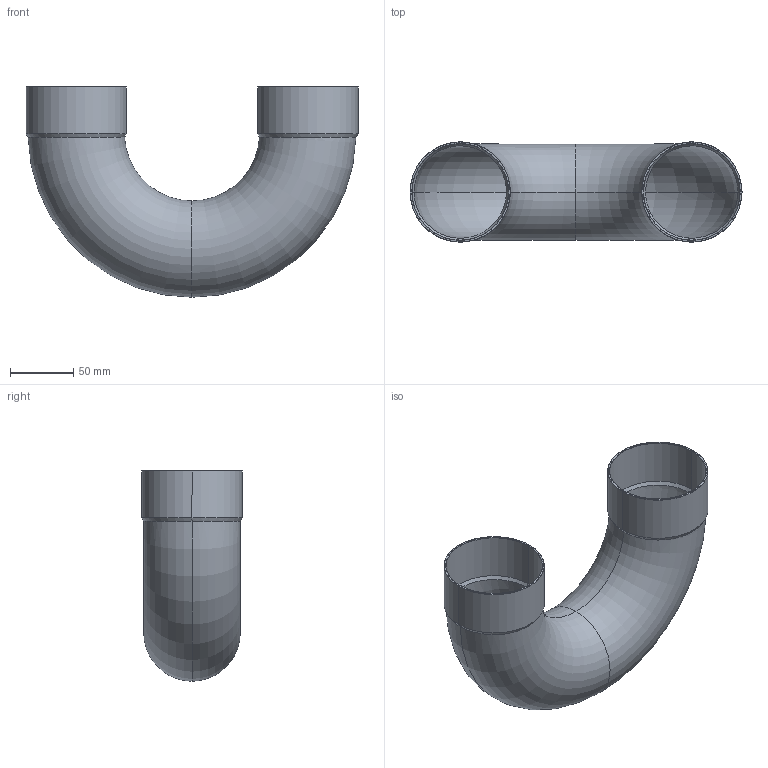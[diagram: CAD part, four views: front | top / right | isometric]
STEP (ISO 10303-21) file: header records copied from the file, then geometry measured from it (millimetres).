
FILE_DESCRIPTION((''),'2;1');
FILE_NAME('C:\sanha_work\5130\f\1506076.stp','2005-10-21T17:22:40',('Kris'),(''),'Autodesk Inventor 8','Autodesk Inventor 8','');
FILE_SCHEMA(('AUTOMOTIVE_DESIGN { 1 0 10303 214 1 1 1 1 }'));
Length unit declared in the file: millimetre
Products named in the file (1): 1506076
Bounding box: 261.8 x 79.2 x 166 mm (x, y, z)
Volume: 136253.7 mm3; surface area: 171004.8 mm2
Topology: 1 solids, 1 shells, 34 faces, 68 edges, 36 vertices
Faces by surface type: cone 12, bspline 9, torus 8, cylinder 4, plane 1
Entity records: 1139 total; most frequent: CARTESIAN_POINT 438, DIRECTION 148, ORIENTED_EDGE 136, EDGE_CURVE 68, AXIS2_PLACEMENT_3D 62, VERTEX_POINT 36, CIRCLE 36, EDGE_LOOP 36
